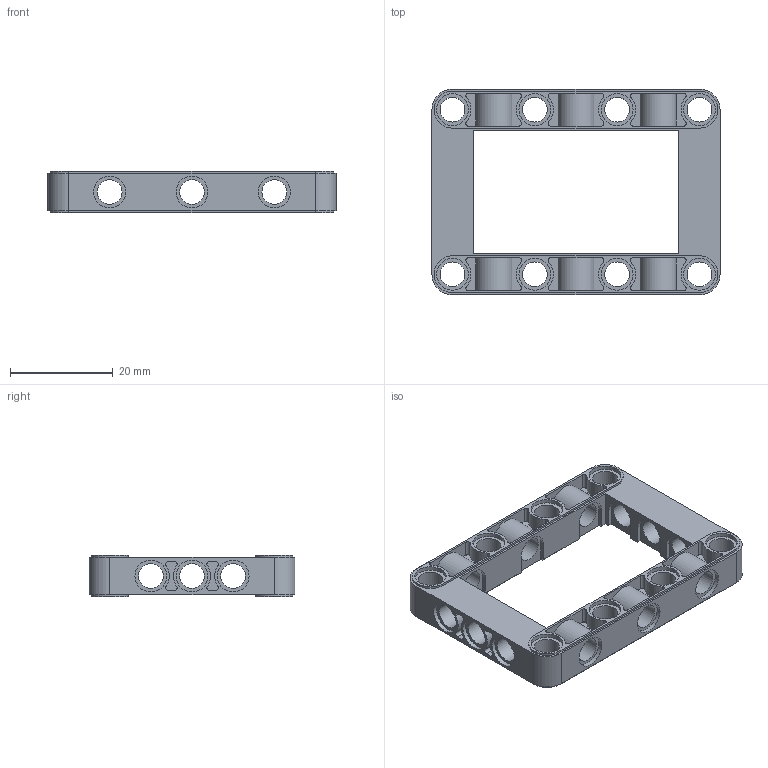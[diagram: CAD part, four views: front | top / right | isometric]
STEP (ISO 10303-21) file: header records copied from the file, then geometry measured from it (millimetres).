
FILE_DESCRIPTION(/* description */ ('Unknown'),/* implementation_level */ '2;1');
FILE_NAME(/* name */ 'ClGray_4539880_AVV',/* time_stamp */ '2025-07-21T23:56:19+02:00',/* author */ ('Unknown'),/* organization */ ('Unknown'),/* preprocessor_version */ 'ST-DEVELOPER v19.4',/* originating_system */ 'Solid Edge',/* authorisation */ 'Unknown');
FILE_SCHEMA (('AUTOMOTIVE_DESIGN {1 0 10303 214 3 1 1}'));
Length unit declared in the file: millimetre
Products named in the file (1): ClGray_4539880_AVV
Bounding box: 56 x 40 x 8 mm (x, y, z)
Volume: 5138.2 mm3; surface area: 7991.6 mm2
Topology: 1 solids, 1 shells, 336 faces, 864 edges, 576 vertices
Faces by surface type: cylinder 180, plane 156
Full cylindrical faces by diameter (mm): 4.8 x20, 6.2 x28
Entity records: 10222 total; most frequent: DIRECTION 1850, CARTESIAN_POINT 1729, ORIENTED_EDGE 1632, EDGE_CURVE 816, AXIS2_PLACEMENT_3D 697, VERTEX_POINT 576, EDGE_LOOP 472, FACE_BOUND 472
